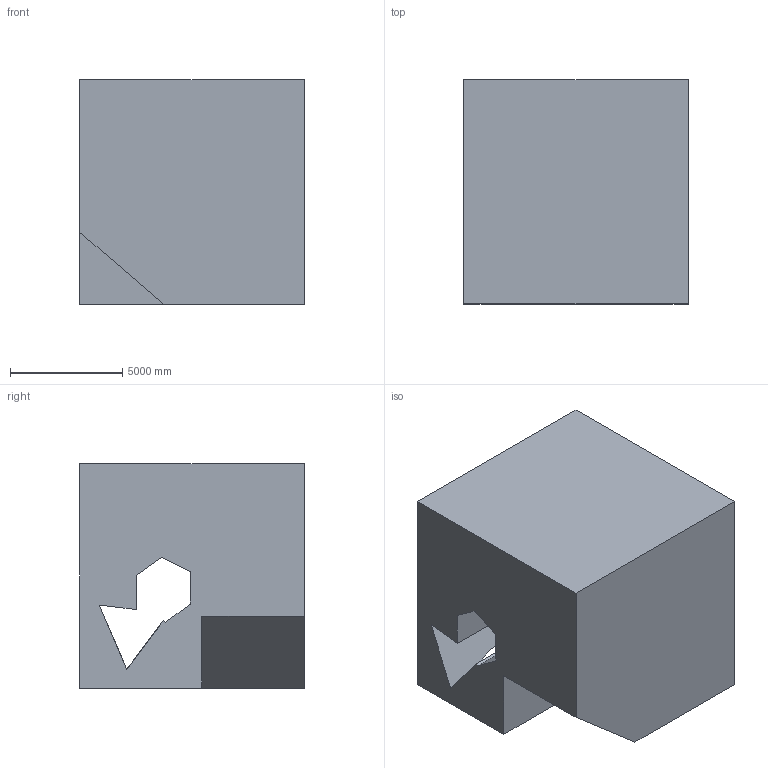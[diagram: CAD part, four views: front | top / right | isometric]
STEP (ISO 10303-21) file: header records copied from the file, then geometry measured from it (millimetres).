
FILE_DESCRIPTION (( 'STEP AP203' ), '1' );
FILE_NAME ('329.STEP', '2022-07-28T14:21:49', ( 'user' ), ( '' ), 'SwSTEP 2.0', 'SolidWorks 2021', '' );
FILE_SCHEMA (( 'CONFIG_CONTROL_DESIGN' ));
Length unit declared in the file: centimetre
Products named in the file (1): 329
Bounding box: 10000 x 10000 x 10000 mm (x, y, z)
Volume: 852374013163.5 mm3; surface area: 719981086.5 mm2
Topology: 1 solids, 1 shells, 22 faces, 66 edges, 44 vertices
Faces by surface type: plane 20, cylinder 2
Entity records: 819 total; most frequent: CARTESIAN_POINT 145, ORIENTED_EDGE 132, DIRECTION 112, EDGE_CURVE 66, LINE 58, VECTOR 58, VERTEX_POINT 44, AXIS2_PLACEMENT_3D 27
